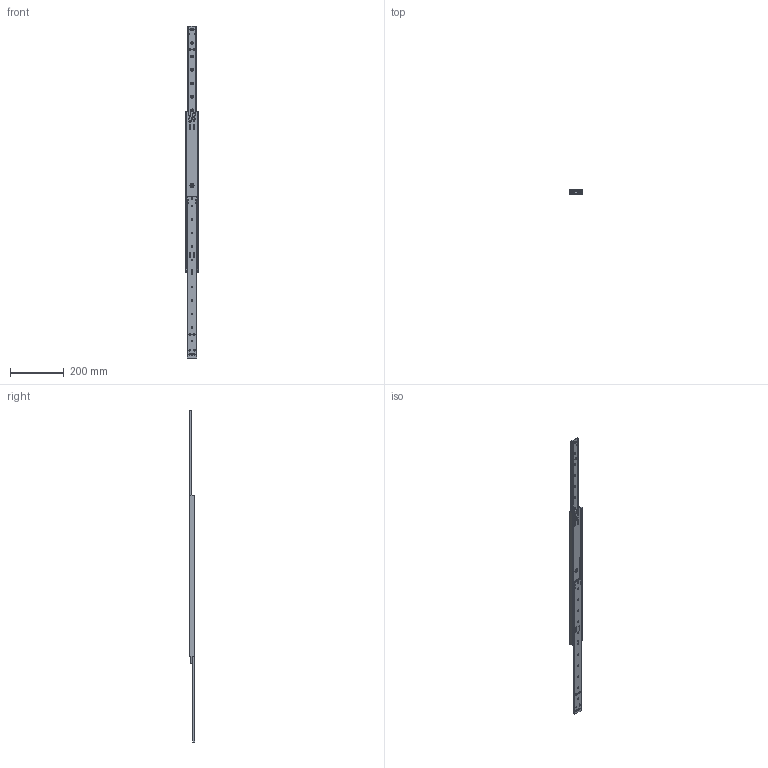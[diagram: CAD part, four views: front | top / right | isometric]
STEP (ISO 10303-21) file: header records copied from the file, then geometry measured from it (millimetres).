
FILE_DESCRIPTION (( 'STEP AP214' ), '1' );
FILE_NAME ('230-600-open.STEP', '2024-08-20T11:11:21', ( '' ), ( '' ), 'SwSTEP 2.0', 'SolidWorks 2024', '' );
FILE_SCHEMA (( 'AUTOMOTIVE_DESIGN' ));
Length unit declared in the file: millimetre
Products named in the file (12): 61_12280_14_Beam Assembled - Stop Raises _3.STEP_Part303; 61_13331_Pin Fitted_27.STEP_Part304; 400_000_004_27.STEP_Part311; 230-600-open; 370_002_070_27.STEP_Part309; 61_12275_13.STEP_Part307; 61_12282_27.STEP_Part305; 61_12274_27.STEP_Part308; 61_12278_20_3.STEP_Part312; 301_000_008_Fitted_27.STEP_Part306; 61_12279_14_3.STEP_Part302; 61_12285_14_open.STEP_Assem55
Assembly tree (27 placements, depth 3):
  230-600-open
    61_12285_14_open.STEP_Assem55
      61_12279_14_3.STEP_Part302
      61_12280_14_Beam Assembled - Stop Raises _3.STEP_Part303  x2
      61_13331_Pin Fitted_27.STEP_Part304  x4
      61_12282_27.STEP_Part305
      301_000_008_Fitted_27.STEP_Part306  x2
      61_12275_13.STEP_Part307
      61_12274_27.STEP_Part308
      370_002_070_27.STEP_Part309  x2
      400_000_004_27.STEP_Part311  x8
      61_12278_20_3.STEP_Part312  x4
Bounding box: 50.7 x 19.75 x 1230 mm (x, y, z)
Volume: 347041.7 mm3; surface area: 239816.6 mm2
Topology: 26 solids, 26 shells, 1512 faces, 3897 edges, 2447 vertices
Faces by surface type: cylinder 628, sphere 353, plane 313, cone 96, torus 77, bspline 45
Entity records: 30758 total; most frequent: CARTESIAN_POINT 9090, DIRECTION 4724, ORIENTED_EDGE 4374, EDGE_CURVE 2187, AXIS2_PLACEMENT_3D 1922, VERTEX_POINT 1358, CIRCLE 1078, EDGE_LOOP 999
